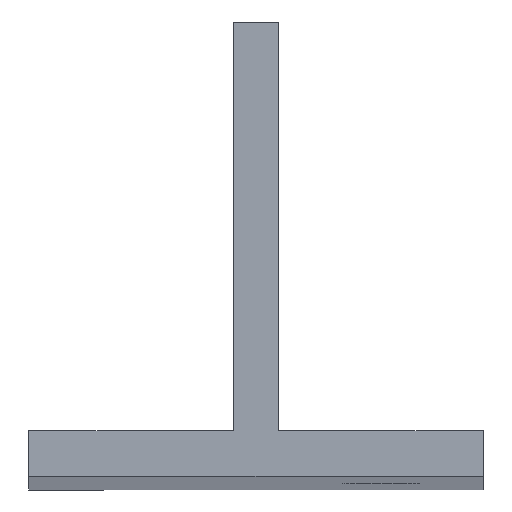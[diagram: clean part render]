
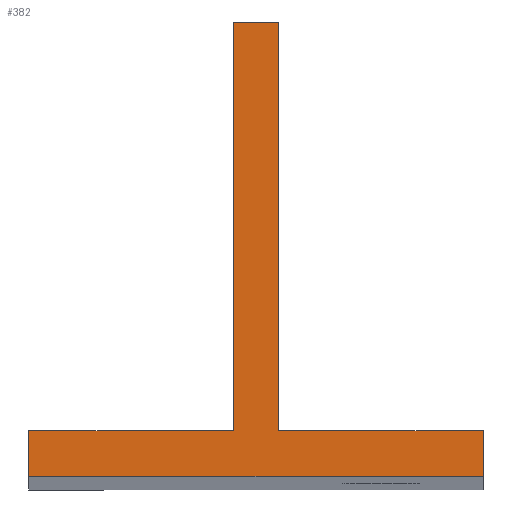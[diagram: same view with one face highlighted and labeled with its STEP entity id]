
A CAD part, top view. The second image highlights one B-rep face of the part: STEP entity #382.
In plain terms, the highlighted planar face has unit normal (0, 0, 1).
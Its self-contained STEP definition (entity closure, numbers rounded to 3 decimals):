
#66=PLANE('',#433);
#91=FACE_OUTER_BOUND('',#116,.T.);
#116=EDGE_LOOP('',(#353,#354,#355,#356,#357,#358,#359,#360));
#135=LINE('',#604,#168);
#137=LINE('',#608,#170);
#139=LINE('',#612,#172);
#141=LINE('',#616,#174);
#143=LINE('',#620,#176);
#145=LINE('',#624,#178);
#147=LINE('',#628,#180);
#149=LINE('',#631,#182);
#168=VECTOR('',#503,10.);
#170=VECTOR('',#507,10.);
#172=VECTOR('',#511,10.);
#174=VECTOR('',#515,10.);
#176=VECTOR('',#519,10.);
#178=VECTOR('',#523,10.);
#180=VECTOR('',#527,10.);
#182=VECTOR('',#531,10.);
#218=VERTEX_POINT('',#601);
#219=VERTEX_POINT('',#603);
#220=VERTEX_POINT('',#607);
#221=VERTEX_POINT('',#611);
#222=VERTEX_POINT('',#615);
#223=VERTEX_POINT('',#619);
#224=VERTEX_POINT('',#623);
#225=VERTEX_POINT('',#627);
#256=EDGE_CURVE('',#219,#218,#135,.T.);
#258=EDGE_CURVE('',#220,#219,#137,.T.);
#260=EDGE_CURVE('',#221,#220,#139,.T.);
#262=EDGE_CURVE('',#222,#221,#141,.T.);
#264=EDGE_CURVE('',#223,#222,#143,.T.);
#266=EDGE_CURVE('',#224,#223,#145,.T.);
#268=EDGE_CURVE('',#225,#224,#147,.T.);
#270=EDGE_CURVE('',#218,#225,#149,.T.);
#353=ORIENTED_EDGE('',*,*,#270,.T.);
#354=ORIENTED_EDGE('',*,*,#268,.T.);
#355=ORIENTED_EDGE('',*,*,#266,.T.);
#356=ORIENTED_EDGE('',*,*,#264,.T.);
#357=ORIENTED_EDGE('',*,*,#262,.T.);
#358=ORIENTED_EDGE('',*,*,#260,.T.);
#359=ORIENTED_EDGE('',*,*,#258,.T.);
#360=ORIENTED_EDGE('',*,*,#256,.T.);
#382=ADVANCED_FACE('',(#91),#66,.T.);
#433=AXIS2_PLACEMENT_3D('',#632,#532,#533);
#503=DIRECTION('',(-1.,0.,0.));
#507=DIRECTION('',(0.,-1.,0.));
#511=DIRECTION('',(-1.,0.,0.));
#515=DIRECTION('',(0.,1.,0.));
#519=DIRECTION('',(-1.,0.,0.));
#523=DIRECTION('',(0.,1.,0.));
#527=DIRECTION('',(1.,0.,0.));
#531=DIRECTION('',(0.,-1.,0.));
#532=DIRECTION('center_axis',(0.,0.,1.));
#533=DIRECTION('ref_axis',(1.,0.,0.));
#601=CARTESIAN_POINT('',(-10.,2.,173.));
#603=CARTESIAN_POINT('',(-1.,2.,173.));
#604=CARTESIAN_POINT('',(-1.,2.,173.));
#607=CARTESIAN_POINT('',(-1.,20.,173.));
#608=CARTESIAN_POINT('',(-1.,20.,173.));
#611=CARTESIAN_POINT('',(1.,20.,173.));
#612=CARTESIAN_POINT('',(1.,20.,173.));
#615=CARTESIAN_POINT('',(1.,2.,173.));
#616=CARTESIAN_POINT('',(1.,2.,173.));
#619=CARTESIAN_POINT('',(10.,2.,173.));
#620=CARTESIAN_POINT('',(10.,2.,173.));
#623=CARTESIAN_POINT('',(10.,0.,173.));
#624=CARTESIAN_POINT('',(10.,0.,173.));
#627=CARTESIAN_POINT('',(-10.,0.,173.));
#628=CARTESIAN_POINT('',(-10.,0.,173.));
#631=CARTESIAN_POINT('',(-10.,2.,173.));
#632=CARTESIAN_POINT('Origin',(0.,10.,173.));
